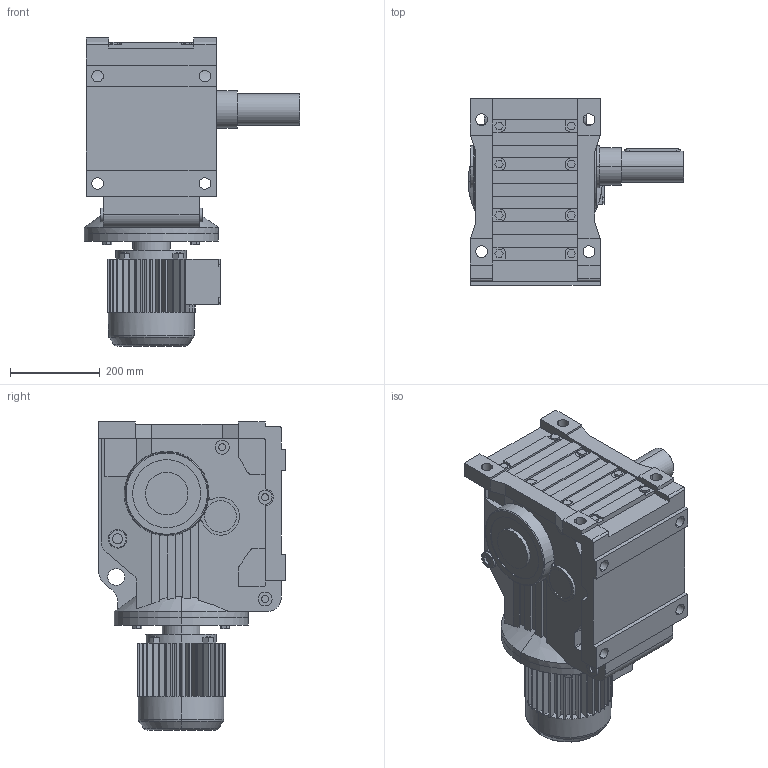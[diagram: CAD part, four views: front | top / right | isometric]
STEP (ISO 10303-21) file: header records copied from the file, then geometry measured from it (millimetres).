
FILE_DESCRIPTION(('Open CASCADE Model'),'2;1');
FILE_NAME('Open CASCADE Shape Model','2021-05-31T10:43:55',('Author'),( 'Open CASCADE'),'Open CASCADE STEP processor 6.3','Open CASCADE 6.3' ,'Unknown');
FILE_SCHEMA(('AUTOMOTIVE_DESIGN_CC2 { 1 2 10303 214 -1 1 5 4 }'));
Length unit declared in the file: millimetre
Products named in the file (4): 1_K97DT90-A; K37‵157_97.step; 萇儂_300-DT90-251-336-197-154.step; す瑩妗陑粣K_97.step
Assembly tree (3 placements, depth 2):
  1_K97DT90-A
    K37‵157_97.step
    萇儂_300-DT90-251-336-197-154.step
    す瑩妗陑粣K_97.step
Bounding box: 482 x 417 x 688 mm (x, y, z)
Volume: 45324800.4 mm3; surface area: 1667420.4 mm2
Topology: 3 solids, 3 shells, 836 faces, 2204 edges, 1431 vertices
Faces by surface type: plane 582, cylinder 231, cone 15, torus 8
Entity records: 57859 total; most frequent: CARTESIAN_POINT 15978, DIRECTION 7217, ORIENTED_EDGE 4404, PCURVE 4404, DEFINITIONAL_REPRESENTATION 4404, LINE 3932, VECTOR 3932, EDGE_CURVE 2202
